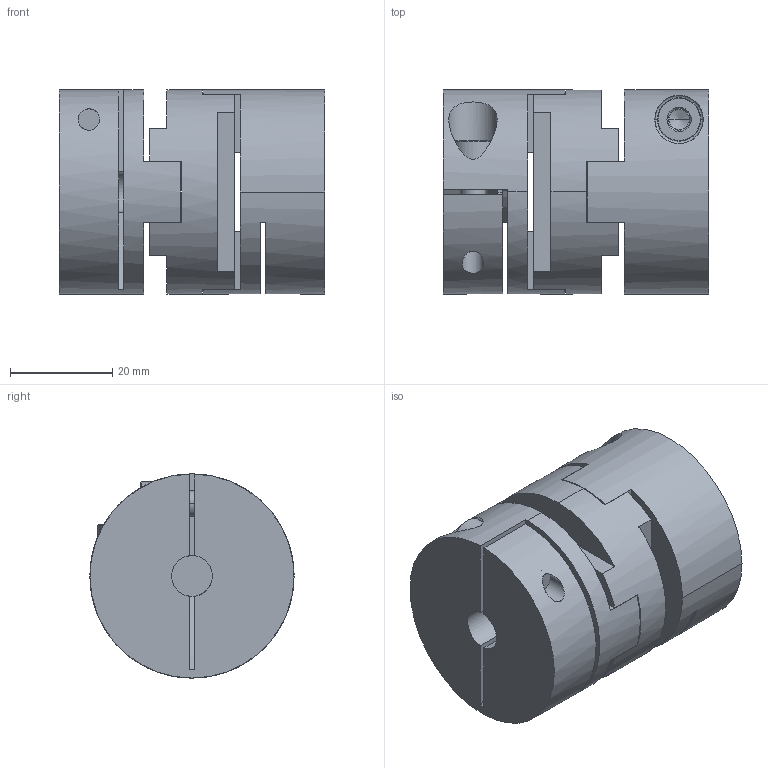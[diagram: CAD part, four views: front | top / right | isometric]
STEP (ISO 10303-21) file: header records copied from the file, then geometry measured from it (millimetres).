
FILE_DESCRIPTION (( 'STEP AP203' ), '1' );
FILE_NAME ('KBO2-40.STEP', '2024-01-10T12:07:23', ( '' ), ( '' ), 'SwSTEP 2.0', 'SolidWorks 2022', '' );
FILE_SCHEMA (( 'CONFIG_CONTROL_DESIGN' ));
Length unit declared in the file: millimetre
Products named in the file (4): KBO2-40; ONK 40_011.00001069.100; ISO 4762 - M5 x 16; OZS 40_011.00001071.500
Assembly tree (5 placements, depth 2):
  KBO2-40
    OZS 40_011.00001071.500
    ONK 40_011.00001069.100  x2
    ISO 4762 - M5 x 16  x2
Bounding box: 52 x 40 x 40 mm (x, y, z)
Volume: 52451.8 mm3; surface area: 21501.6 mm2
Topology: 5 solids, 5 shells, 155 faces, 399 edges, 254 vertices
Faces by surface type: plane 86, cylinder 45, torus 12, cone 12
Entity records: 3441 total; most frequent: CARTESIAN_POINT 654, DIRECTION 521, ORIENTED_EDGE 476, EDGE_CURVE 238, AXIS2_PLACEMENT_3D 199, VERTEX_POINT 154, LINE 123, VECTOR 123
